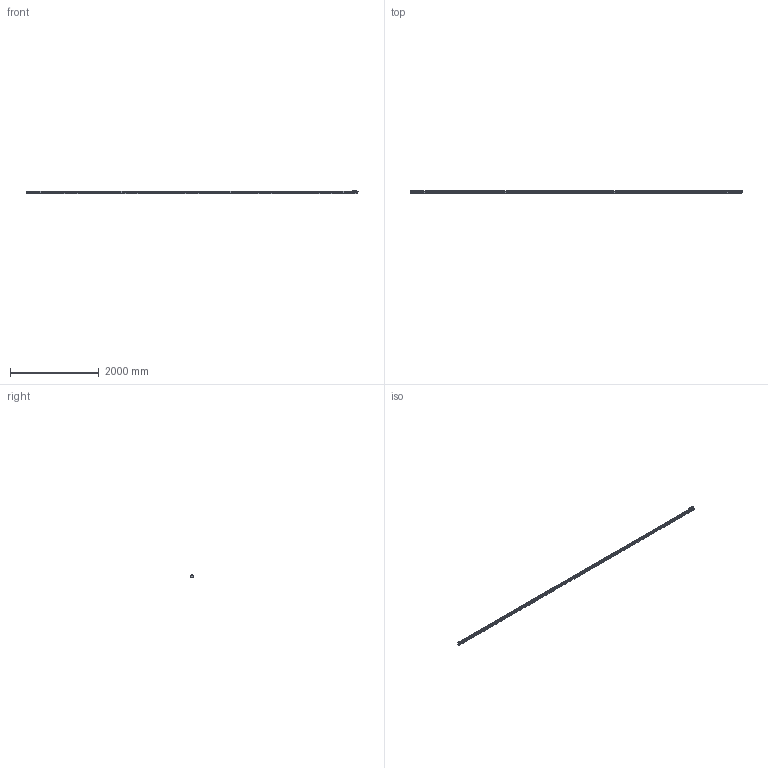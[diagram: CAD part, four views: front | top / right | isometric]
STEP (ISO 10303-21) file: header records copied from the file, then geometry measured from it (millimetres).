
FILE_DESCRIPTION(('Creo Elements/Direct Modeling STEP Export'),'2;1');
FILE_NAME('REGLA_L3_7240_T.stp','2021-02-05T10:04:30',(''),(''),'Creo Elements/Direct Modeling STEP processor for AP214 (Solid Model)','Creo Elements/Direct Modeling 19.0G 27-Nov-2017 (C) Parametric Technology GmbH','');
FILE_SCHEMA(('AUTOMOTIVE_DESIGN { 1 0 10303 214 1 1 1 1 }'));
Length unit declared in the file: millimetre
Products named in the file (3): CABEZA_L3_T_M6; PERFIL_L3_7240; MOD_L3_7240_T
Assembly tree (2 placements, depth 2):
  MOD_L3_7240_T
    PERFIL_L3_7240
    CABEZA_L3_T_M6
Bounding box: 7490 x 50 x 85 mm (x, y, z)
Volume: 19414532.1 mm3; surface area: 2173404.7 mm2
Topology: 2 solids, 2 shells, 2454 faces, 7041 edges, 4692 vertices
Faces by surface type: plane 1231, cylinder 855, cone 253, bspline 59, torus 50, extrusion 6
Entity records: 96092 total; most frequent: CARTESIAN_POINT 26682, ORIENTED_EDGE 14066, DIRECTION 12513, EDGE_CURVE 7033, VERTEX_POINT 4692, VECTOR 4429, LINE 4423, AXIS2_PLACEMENT_3D 4042
